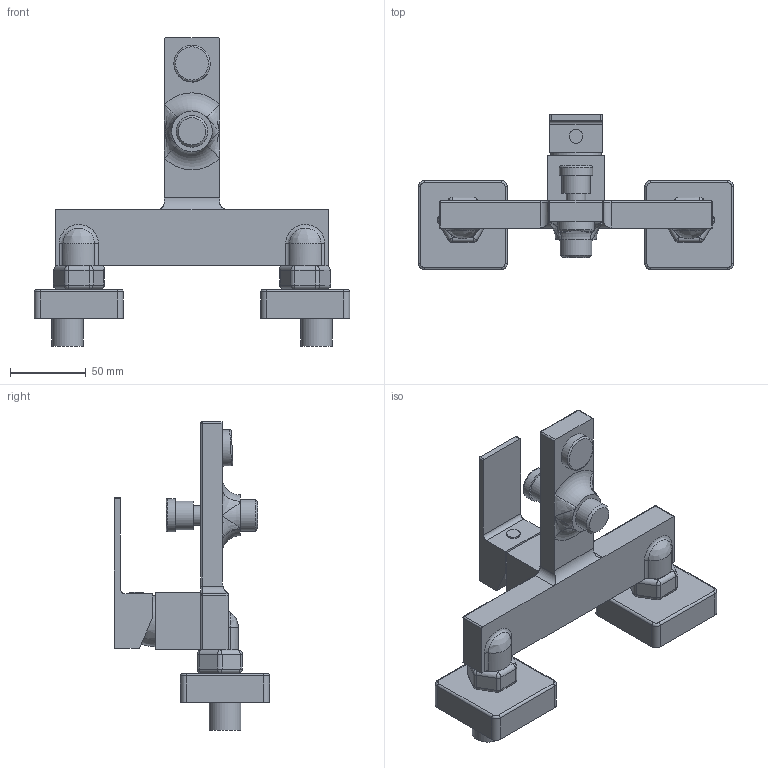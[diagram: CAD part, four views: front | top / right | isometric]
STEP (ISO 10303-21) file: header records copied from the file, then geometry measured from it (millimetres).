
FILE_DESCRIPTION(/* description */ ('CANTO bateria wannowa CHROM','CAx-IF Rec.Pracs.---Representation and Presentation of Product Manufacturing Information (PMI)---4.0---2014-10-13'),/* implementation_level */ '2;1');
FILE_NAME(/* name */ 'C:\Nextcloud\02_biblioteki_cad\Valvex\Projekt\PROJECTS\ETAP 7\CANTO\2420380\2420380.stp',/* time_stamp */ '2022-12-06T09:25:33+01:00',/* author */ ('Alan Batog'),/* organization */ (''),/* preprocessor_version */ 'ST-DEVELOPER v18.1',/* originating_system */ 'Autodesk Inventor 2022',/* authorisation */ '');
FILE_SCHEMA (('AP242_MANAGED_MODEL_BASED_3D_ENGINEERING_MIM_LF { 1 0 10303 442 1 1 4 }'));
Length unit declared in the file: millimetre
Products named in the file (1): 2420370
Bounding box: 209 x 102.75 x 204.3 mm (x, y, z)
Volume: 477000.7 mm3; surface area: 81997.7 mm2
Topology: 3 solids, 3 shells, 235 faces, 513 edges, 291 vertices
Faces by surface type: cylinder 100, plane 75, sphere 34, torus 16, bspline 9, cone 1
Full cylindrical faces by diameter (mm): 9 x1, 13 x1, 19 x1, 21 x3, 22 x1, 24 x1
Entity records: 7174 total; most frequent: CARTESIAN_POINT 1766, DIRECTION 1201, ORIENTED_EDGE 1018, EDGE_CURVE 509, AXIS2_PLACEMENT_3D 473, VERTEX_POINT 291, LINE 255, VECTOR 255
